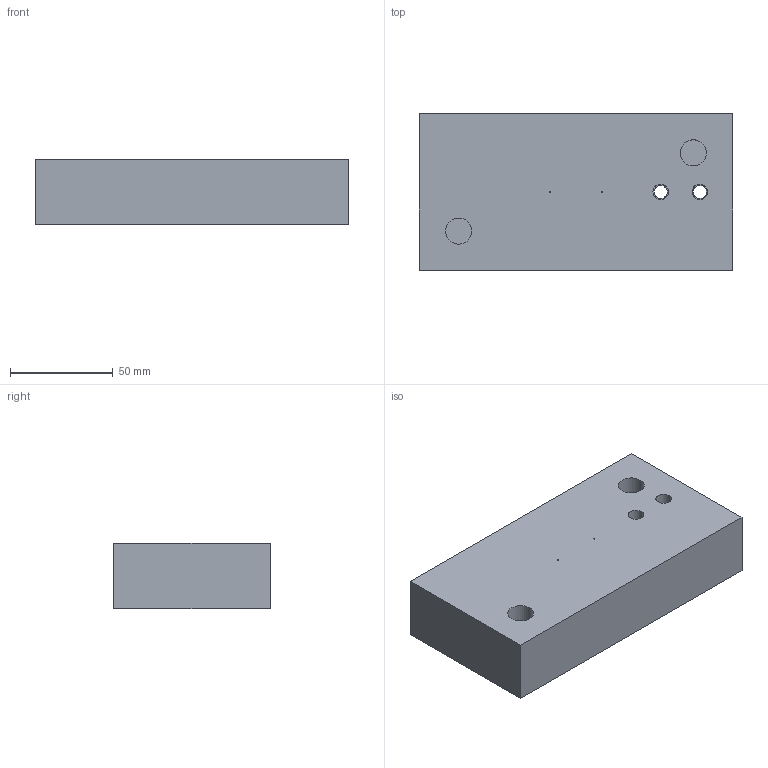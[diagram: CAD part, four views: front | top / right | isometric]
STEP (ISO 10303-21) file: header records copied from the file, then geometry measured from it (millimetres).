
FILE_DESCRIPTION (( 'STEP AP214' ), '1' );
FILE_NAME ('PUNCHPLATE.STEP', '2020-05-25T15:57:33', ( '' ), ( '' ), 'SwSTEP 2.0', 'SolidWorks 2020', '' );
FILE_SCHEMA (( 'AUTOMOTIVE_DESIGN' ));
Length unit declared in the file: inch
Products named in the file (1): PUNCHPLATE
Bounding box: 152.4 x 76.2 x 31.75 mm (x, y, z)
Volume: 361741.1 mm3; surface area: 40655.6 mm2
Topology: 1 solids, 1 shells, 32 faces, 72 edges, 48 vertices
Faces by surface type: cylinder 20, plane 12
Entity records: 972 total; most frequent: DIRECTION 178, CARTESIAN_POINT 153, ORIENTED_EDGE 144, AXIS2_PLACEMENT_3D 73, EDGE_CURVE 72, VERTEX_POINT 48, EDGE_LOOP 46, CIRCLE 40
